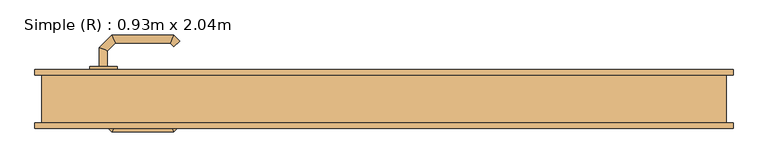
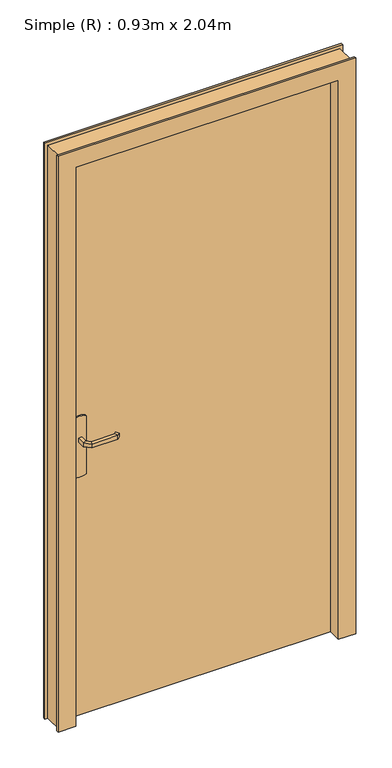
"""IFC4 building model written with IfcOpenShell, lengths in millimetres: door geometry, Simple (R) : 0.93m x 2.04m."""

from ifc_helpers import new_model, si_unit, point, frame, frame_2d, origin, origin_with_axes, place, context, project, spatial, polyline, circle_curve, ellipse_curve, trimmed, segment, composite_curve, outline, extrude, faceted_brep, source, transform, mapped, element, save
from ifc_brep_helpers import plane_surface, cylinder_surface, advanced_brep


def simple_r_0_93m_x_2_04m_b10a4dcd(model_context):
    return source(origin(), model_context, "Body", "SolidModel", [
        advanced_brep(
        [(-404.0, -2.0, 993.0), (-416.0, -2.0, 993.0), (-416.0, -2.0, 1007.0), (-404.0, -2.0, 1007.0), (-404.0, -24.4852045, 1007.0), (-404.0, -24.4852045, 993.0), (-416.0, -29.4557673, 1007.0), (-416.0, -29.4557673, 993.0), (-392.5147186, -35.9704859, 1007.0), (-392.5147186, -35.9704859, 993.0), (-397.4852814, -47.9704859, 1007.0), (-397.4852814, -47.9704859, 993.0), (-312.4394977, -35.9704859, 1007.0), (-312.4394977, -35.9704859, 993.0), (-307.468935, -47.9704859, 1007.0), (-307.468935, -47.9704859, 993.0), (-307.1257892, -30.6567774, 993.0), (-307.1257892, -30.6567774, 1007.0), (-298.6405078, -39.1420588, 1007.0), (-298.6405078, -39.1420588, 993.0)],
        [
            (0, 1, circle_curve(frame((-410.0, -2.0, 1013.0457722), z_axis=(0.0, 1.0, 0.0), x_axis=(-1.0, 0.0, 0.0)), 20.9244589)),
            (1, 2),
            (2, 3, circle_curve(frame((-410.0, -2.0, 986.9542278), z_axis=(0.0, 1.0, 0.0), x_axis=(-1.0, 0.0, 0.0)), 20.9244589)),
            (3, 0),
            (3, 4),
            (4, 5),
            (5, 0),
            (2, 6),
            (6, 4, ellipse_curve(frame((-410.0, -26.9704859, 986.9542278), z_axis=(-0.38268343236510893, 0.9238795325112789, 0.0), x_axis=(0.9238795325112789, 0.3826834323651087, 0.0)), 22.6484711, 20.9244589)),
            (1, 7),
            (7, 6),
            (5, 7, ellipse_curve(frame((-410.0, -26.9704859, 1013.0457722), z_axis=(-0.38268343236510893, 0.9238795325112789, 0.0), x_axis=(0.9238795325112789, 0.3826834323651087, 0.0)), 22.6484711, 20.9244589)),
            (4, 8),
            (8, 9),
            (9, 5),
            (6, 10),
            (10, 8, ellipse_curve(frame((-395.0, -41.9704859, 986.9542278), z_axis=(-0.9238795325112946, 0.38268343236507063, 0.0), x_axis=(0.3826834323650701, 0.9238795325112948, 0.0)), 22.6484711, 20.9244589)),
            (7, 11),
            (11, 10),
            (9, 11, ellipse_curve(frame((-395.0, -41.9704859, 1013.0457722), z_axis=(-0.9238795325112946, 0.38268343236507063, 0.0), x_axis=(0.3826834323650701, 0.9238795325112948, 0.0)), 22.6484711, 20.9244589)),
            (8, 12),
            (12, 13),
            (13, 9),
            (10, 14),
            (14, 12, ellipse_curve(frame((-309.9542163, -41.9704859, 986.9542278), z_axis=(-0.9238795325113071, -0.38268343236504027, 0.0), x_axis=(-0.38268343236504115, 0.9238795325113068, 0.0)), 22.6484711, 20.9244589)),
            (11, 15),
            (15, 14),
            (13, 15, ellipse_curve(frame((-309.9542163, -41.9704859, 1013.0457722), z_axis=(-0.9238795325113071, -0.38268343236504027, 0.0), x_axis=(-0.38268343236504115, 0.9238795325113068, 0.0)), 22.6484711, 20.9244589)),
            (16, 17),
            (17, 18, circle_curve(frame((-302.8831485, -34.8994181, 986.9542278), z_axis=(0.7071067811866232, 0.7071067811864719, 0.0), x_axis=(0.7071067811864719, -0.7071067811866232, 0.0)), 20.9244589)),
            (18, 19),
            (19, 16, circle_curve(frame((-302.8831485, -34.8994181, 1013.0457722), z_axis=(0.7071067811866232, 0.7071067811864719, 0.0), x_axis=(0.7071067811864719, -0.7071067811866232, 0.0)), 20.9244589)),
            (12, 17),
            (16, 13),
            (14, 18),
            (15, 19),
        ],
        [
            plane_surface(frame((-419.2195445, -2.0, 1000.0), z_axis=(0.0, 1.0, 0.0), x_axis=(0.0, 0.0, 1.0))),
            plane_surface(frame((-404.0, -2.0, 993.0), z_axis=(1.0, 0.0, 0.0), x_axis=(0.0, -1.0, 0.0))),
            cylinder_surface(frame((-410.0, -2.0, 986.9542278), z_axis=(0.0, 1.0, 0.0), x_axis=(-1.0, 0.0, 0.0)), 20.9244589),
            plane_surface(frame((-416.0, -2.0, 1007.0), z_axis=(-1.0, 0.0, 0.0), x_axis=(0.0, -1.0, 0.0))),
            cylinder_surface(frame((-410.0, -2.0, 1013.0457722), z_axis=(0.0, 1.0, 0.0), x_axis=(-1.0, 0.0, 0.0)), 20.9244589),
            plane_surface(frame((-404.0, -24.4852045, 993.0), z_axis=(0.707106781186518, 0.707106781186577, 0.0), x_axis=(0.707106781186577, -0.707106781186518, 0.0))),
            cylinder_surface(frame((-410.0, -26.9704859, 986.9542278), z_axis=(-0.7071067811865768, 0.7071067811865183, 0.0), x_axis=(-0.7071067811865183, -0.7071067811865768, 0.0)), 20.9244589),
            plane_surface(frame((-416.0, -29.4557673, 1007.0), z_axis=(-0.7071067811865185, -0.7071067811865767, 0.0), x_axis=(0.7071067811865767, -0.7071067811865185, 0.0))),
            cylinder_surface(frame((-410.0, -26.9704859, 1013.0457722), z_axis=(-0.7071067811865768, 0.7071067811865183, 0.0), x_axis=(-0.7071067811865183, -0.7071067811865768, 0.0)), 20.9244589),
            plane_surface(frame((-392.5147186, -35.9704859, 993.0), z_axis=(0.0, 1.0, 0.0), x_axis=(1.0, 0.0, 0.0))),
            cylinder_surface(frame((-395.0, -41.9704859, 986.9542278), z_axis=(-1.0, 0.0, 0.0), x_axis=(0.0, -1.0, 0.0)), 20.9244589),
            plane_surface(frame((-397.4852814, -47.9704859, 1007.0), z_axis=(0.0, -1.0, 0.0), x_axis=(1.0, 0.0, 0.0))),
            cylinder_surface(frame((-395.0, -41.9704859, 1013.0457722), z_axis=(-1.0, 0.0, 0.0), x_axis=(0.0, -1.0, 0.0)), 20.9244589),
            plane_surface(frame((-302.8831485, -34.8994181, 990.7804555), z_axis=(0.7071067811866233, 0.7071067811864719, 0.0), x_axis=(0.7071067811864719, -0.7071067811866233, 0.0))),
            plane_surface(frame((-312.4394977, -35.9704859, 993.0), z_axis=(-0.707106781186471, 0.7071067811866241, 0.0), x_axis=(0.7071067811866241, 0.707106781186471, 0.0))),
            cylinder_surface(frame((-309.9542163, -41.9704859, 986.9542278), z_axis=(-0.7071067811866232, -0.7071067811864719, 0.0), x_axis=(0.7071067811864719, -0.7071067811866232, 0.0)), 20.9244589),
            plane_surface(frame((-307.468935, -47.9704859, 1007.0), z_axis=(0.7071067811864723, -0.7071067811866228, 0.0), x_axis=(0.7071067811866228, 0.7071067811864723, 0.0))),
            cylinder_surface(frame((-309.9542163, -41.9704859, 1013.0457722), z_axis=(-0.7071067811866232, -0.7071067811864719, 0.0), x_axis=(0.7071067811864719, -0.7071067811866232, 0.0)), 20.9244589),
        ],
        [
            (0, [[1, 2, 3, 4]]),
            (1, [[5, 6, 7, -4]]),
            (2, [[8, 9, -5, -3]]),
            (3, [[10, 11, -8, -2]]),
            (4, [[-7, 12, -10, -1]]),
            (5, [[13, 14, 15, -6]]),
            (6, [[16, 17, -13, -9]]),
            (7, [[18, 19, -16, -11]]),
            (8, [[-15, 20, -18, -12]]),
            (9, [[21, 22, 23, -14]]),
            (10, [[24, 25, -21, -17]]),
            (11, [[26, 27, -24, -19]]),
            (12, [[-23, 28, -26, -20]]),
            (13, [[29, 30, 31, 32]]),
            (14, [[33, -29, 34, -22]]),
            (15, [[35, -30, -33, -25]]),
            (16, [[36, -31, -35, -27]]),
            (17, [[-34, -32, -36, -28]]),
        ],
    ),
        advanced_brep(
        [(-416.0, 48.0, 1007.0), (-416.0, 48.0, 993.0), (-404.0, 48.0, 993.0), (-404.0, 48.0, 1007.0), (-404.0, 70.680388, 1007.0), (-416.0, 75.6509507, 1007.0), (-404.0, 70.680388, 993.0), (-416.0, 75.6509507, 993.0), (-392.6522273, 82.0281607, 1007.0), (-397.62279, 94.0281607, 1007.0), (-392.6522273, 82.0281607, 993.0), (-397.62279, 94.0281607, 993.0), (-312.4666408, 82.0281607, 1007.0), (-307.496078, 94.0281607, 1007.0), (-312.4666408, 82.0281607, 993.0), (-307.496078, 94.0281607, 993.0), (-298.6676509, 85.1997336, 1007.0), (-307.1529323, 76.7144522, 1007.0), (-307.1529323, 76.7144522, 993.0), (-298.6676509, 85.1997336, 993.0)],
        [
            (0, 1),
            (1, 2, circle_curve(frame((-410.0, 48.0, 1013.0457722), z_axis=(0.0, -1.0, 0.0), x_axis=(1.0, 0.0, 0.0)), 20.9244589)),
            (2, 3),
            (3, 0, circle_curve(frame((-410.0, 48.0, 986.9542278), z_axis=(0.0, -1.0, 0.0), x_axis=(1.0, 0.0, 0.0)), 20.9244589)),
            (3, 4),
            (4, 5, ellipse_curve(frame((-410.0, 73.1656693, 986.9542278), z_axis=(-0.3826834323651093, -0.9238795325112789, 0.0), x_axis=(0.9238795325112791, -0.38268343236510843, 0.0)), 22.6484711, 20.9244589)),
            (5, 0),
            (2, 6),
            (6, 4),
            (1, 7),
            (7, 6, ellipse_curve(frame((-410.0, 73.1656693, 1013.0457722), z_axis=(-0.3826834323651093, -0.9238795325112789, 0.0), x_axis=(0.9238795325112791, -0.38268343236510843, 0.0)), 22.6484711, 20.9244589)),
            (5, 7),
            (4, 8),
            (8, 9, ellipse_curve(frame((-395.1375086, 88.0281607, 986.9542278), z_axis=(-0.9238795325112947, -0.38268343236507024, 0.0), x_axis=(0.3826834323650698, -0.9238795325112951, 0.0)), 22.6484711, 20.9244589)),
            (9, 5),
            (6, 10),
            (10, 8),
            (7, 11),
            (11, 10, ellipse_curve(frame((-395.1375086, 88.0281607, 1013.0457722), z_axis=(-0.9238795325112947, -0.38268343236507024, 0.0), x_axis=(0.3826834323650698, -0.9238795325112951, 0.0)), 22.6484711, 20.9244589)),
            (9, 11),
            (8, 12),
            (12, 13, ellipse_curve(frame((-309.9813594, 88.0281607, 986.9542278), z_axis=(-0.9238795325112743, 0.3826834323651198, 0.0), x_axis=(-0.38268343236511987, -0.9238795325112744, 0.0)), 22.6484711, 20.9244589)),
            (13, 9),
            (10, 14),
            (14, 12),
            (11, 15),
            (15, 14, ellipse_curve(frame((-309.9813594, 88.0281607, 1013.0457722), z_axis=(-0.9238795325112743, 0.3826834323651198, 0.0), x_axis=(-0.38268343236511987, -0.9238795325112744, 0.0)), 22.6484711, 20.9244589)),
            (13, 15),
            (16, 17, circle_curve(frame((-302.9102916, 80.9570929, 986.9542278), z_axis=(0.7071067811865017, -0.7071067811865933, 0.0), x_axis=(-0.7071067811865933, -0.7071067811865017, 0.0)), 20.9244589)),
            (17, 18),
            (18, 19, circle_curve(frame((-302.9102916, 80.9570929, 1013.0457722), z_axis=(0.7071067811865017, -0.7071067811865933, 0.0), x_axis=(-0.7071067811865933, -0.7071067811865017, 0.0)), 20.9244589)),
            (19, 16),
            (12, 17),
            (16, 13),
            (14, 18),
            (15, 19),
        ],
        [
            plane_surface(frame((-419.2195445, 48.0, 1000.0), z_axis=(0.0, -1.0, 0.0), x_axis=(0.0, 0.0, -1.0))),
            cylinder_surface(frame((-410.0, 48.0, 986.9542278), z_axis=(0.0, -1.0, 0.0), x_axis=(1.0, 0.0, 0.0)), 20.9244589),
            plane_surface(frame((-404.0, 48.0, 1007.0), z_axis=(1.0, 0.0, 0.0), x_axis=(0.0, 1.0, 0.0))),
            cylinder_surface(frame((-410.0, 48.0, 1013.0457722), z_axis=(0.0, -1.0, 0.0), x_axis=(1.0, 0.0, 0.0)), 20.9244589),
            plane_surface(frame((-416.0, 48.0, 993.0), z_axis=(-1.0, 0.0, 0.0), x_axis=(0.0, 1.0, 0.0))),
            cylinder_surface(frame((-410.0, 73.1656693, 986.9542278), z_axis=(-0.7071067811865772, -0.7071067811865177, 0.0), x_axis=(0.7071067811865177, -0.7071067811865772, 0.0)), 20.9244589),
            plane_surface(frame((-404.0, 70.680388, 1007.0), z_axis=(0.7071067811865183, -0.7071067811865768, 0.0), x_axis=(0.7071067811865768, 0.7071067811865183, 0.0))),
            cylinder_surface(frame((-410.0, 73.1656693, 1013.0457722), z_axis=(-0.7071067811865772, -0.7071067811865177, 0.0), x_axis=(0.7071067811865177, -0.7071067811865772, 0.0)), 20.9244589),
            plane_surface(frame((-416.0, 75.6509507, 993.0), z_axis=(-0.707106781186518, 0.707106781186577, 0.0), x_axis=(0.707106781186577, 0.707106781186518, 0.0))),
            cylinder_surface(frame((-395.1375086, 88.0281607, 986.9542278), z_axis=(-1.0, 0.0, 0.0), x_axis=(0.0, -1.0, 0.0)), 20.9244589),
            plane_surface(frame((-392.6522273, 82.0281607, 1007.0), z_axis=(0.0, -1.0, 0.0), x_axis=(1.0, 0.0, 0.0))),
            cylinder_surface(frame((-395.1375086, 88.0281607, 1013.0457722), z_axis=(-1.0, 0.0, 0.0), x_axis=(0.0, -1.0, 0.0)), 20.9244589),
            plane_surface(frame((-397.62279, 94.0281607, 993.0), z_axis=(0.0, 1.0, 0.0), x_axis=(1.0, 0.0, 0.0))),
            plane_surface(frame((-302.9102916, 80.9570929, 1009.2195445), z_axis=(0.7071067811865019, -0.7071067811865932, 0.0), x_axis=(0.7071067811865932, 0.7071067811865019, 0.0))),
            cylinder_surface(frame((-309.9813594, 88.0281607, 986.9542278), z_axis=(-0.7071067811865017, 0.7071067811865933, 0.0), x_axis=(-0.7071067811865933, -0.7071067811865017, 0.0)), 20.9244589),
            plane_surface(frame((-312.4666408, 82.0281607, 1007.0), z_axis=(-0.7071067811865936, -0.7071067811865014, 0.0), x_axis=(0.7071067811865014, -0.7071067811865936, 0.0))),
            cylinder_surface(frame((-309.9813594, 88.0281607, 1013.0457722), z_axis=(-0.7071067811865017, 0.7071067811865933, 0.0), x_axis=(-0.7071067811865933, -0.7071067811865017, 0.0)), 20.9244589),
            plane_surface(frame((-307.496078, 94.0281607, 993.0), z_axis=(0.707106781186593, 0.7071067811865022, 0.0), x_axis=(0.7071067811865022, -0.707106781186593, 0.0))),
        ],
        [
            (0, [[1, 2, 3, 4]]),
            (1, [[5, 6, 7, -4]]),
            (2, [[8, 9, -5, -3]]),
            (3, [[10, 11, -8, -2]]),
            (4, [[-7, 12, -10, -1]]),
            (5, [[13, 14, 15, -6]]),
            (6, [[16, 17, -13, -9]]),
            (7, [[18, 19, -16, -11]]),
            (8, [[-15, 20, -18, -12]]),
            (9, [[21, 22, 23, -14]]),
            (10, [[24, 25, -21, -17]]),
            (11, [[26, 27, -24, -19]]),
            (12, [[-23, 28, -26, -20]]),
            (13, [[29, 30, 31, 32]]),
            (14, [[33, -29, 34, -22]]),
            (15, [[35, -30, -33, -25]]),
            (16, [[36, -31, -35, -27]]),
            (17, [[-34, -32, -36, -28]]),
        ],
    ),
        extrude(outline(composite_curve([segment(trimmed(circle_curve(frame_2d((1045.3589838, -410.0)), 40.0), [point((1080.0, -390.0))], [point((1080.0, -430.0))], False, "CARTESIAN"), True, "CONTINUOUS"), segment(polyline([(1080.0, -430.0), (870.0, -430.0)]), True, "CONTINUOUS"), segment(trimmed(circle_curve(frame_2d((904.6410162, -410.0)), 40.0), [point((870.0, -430.0))], [point((870.0, -390.0))], False, "CARTESIAN"), True, "CONTINUOUS"), segment(polyline([(870.0, -390.0), (1080.0, -390.0)]), True, "CONTINUOUS")], self_intersect=False)), frame((0.0, -2.0, 0.0), z_axis=(0.0, 1.0, 0.0), x_axis=(0.0, 0.0, 1.0)), (0.0, 0.0, 1.0), 5.0),
        extrude(outline(composite_curve([segment(trimmed(circle_curve(frame_2d((904.6410162, -410.0)), 40.0), [point((870.0, -430.0))], [point((870.0, -390.0))], False, "CARTESIAN"), True, "CONTINUOUS"), segment(polyline([(870.0, -390.0), (1080.0, -390.0)]), True, "CONTINUOUS"), segment(trimmed(circle_curve(frame_2d((1045.3589838, -410.0)), 40.0), [point((1080.0, -390.0))], [point((1080.0, -430.0))], False, "CARTESIAN"), True, "CONTINUOUS"), segment(polyline([(1080.0, -430.0), (870.0, -430.0)]), True, "CONTINUOUS")], self_intersect=False)), frame((0.0, 43.0, 0.0), z_axis=(0.0, 1.0, 0.0), x_axis=(0.0, 0.0, 1.0)), (0.0, 0.0, 1.0), 5.0),
        faceted_brep([(-500.0, 35.0, 0.0), (-510.0, 35.0, 0.0), (-510.0, 43.0, 0.0), (-465.0, 43.0, 0.0), (-465.0, 3.0, 0.0), (-450.0, 3.0, 0.0), (-450.0, -43.0, 0.0), (-510.0, -43.0, 0.0), (-510.0, -35.0, 0.0), (-500.0, -35.0, 0.0), (-500.0, -35.0, 2075.0), (-500.0, 35.0, 2075.0), (-510.0, -35.0, 2085.0), (510.0, -35.0, 2085.0), (510.0, -35.0, 0.0), (500.0, -35.0, 0.0), (500.0, -35.0, 2075.0), (-510.0, -43.0, 2085.0), (-450.0, -43.0, 2025.0), (450.0, -43.0, 2025.0), (450.0, -43.0, 0.0), (510.0, -43.0, 0.0), (510.0, -43.0, 2085.0), (-450.0, 3.0, 2025.0), (-465.0, 3.0, 2040.0), (465.0, 3.0, 2040.0), (465.0, 3.0, 0.0), (450.0, 3.0, 0.0), (450.0, 3.0, 2025.0), (-465.0, 43.0, 2040.0), (-510.0, 43.0, 2085.0), (510.0, 43.0, 2085.0), (510.0, 43.0, 0.0), (465.0, 43.0, 0.0), (465.0, 43.0, 2040.0), (-510.0, 35.0, 2085.0), (500.0, 35.0, 2075.0), (500.0, 35.0, 0.0), (510.0, 35.0, 0.0), (510.0, 35.0, 2085.0)], [[[0, 1, 2, 3, 4, 5, 6, 7, 8, 9]], [[9, 10, 11, 0]], [[8, 12, 13, 14, 15, 16, 10, 9]], [[7, 17, 12, 8]], [[6, 18, 19, 20, 21, 22, 17, 7]], [[5, 23, 18, 6]], [[4, 24, 25, 26, 27, 28, 23, 5]], [[3, 29, 24, 4]], [[2, 30, 31, 32, 33, 34, 29, 3]], [[1, 35, 30, 2]], [[0, 11, 36, 37, 38, 39, 35, 1]], [[10, 16, 36, 11]], [[17, 22, 13, 12]], [[23, 28, 19, 18]], [[29, 34, 25, 24]], [[35, 39, 31, 30]], [[37, 15, 14, 21, 20, 27, 26, 33, 32, 38]], [[16, 15, 37, 36]], [[22, 21, 14, 13]], [[28, 27, 20, 19]], [[34, 33, 26, 25]], [[39, 38, 32, 31]]]),
        extrude(outline(polyline([(465.0, 43.0), (465.0, 3.0), (-465.0, 3.0), (-465.0, 43.0), (465.0, 43.0)])), origin_with_axes(), (0.0, 0.0, 1.0), 2040.0),
    ])


if __name__ == "__main__":
    model = new_model("IFC4")
    model_context = context("Model", 3, world=origin())
    ifc_project = project(units=[si_unit("LENGTHUNIT", "METRE", prefix="MILLI")], contexts=[model_context])
    site = spatial("IfcSite", under=ifc_project)
    building = spatial("IfcBuilding", under=site)
    placement = place(None, origin())
    simple_r_0_93m_x_2_04m_shape = simple_r_0_93m_x_2_04m_b10a4dcd(model_context)
    element("IfcDoor", 1, ObjectType="Simple (R) : 0.93m x 2.04m", at=placement, inside=building, context=model_context, shape_type="MappedRepresentation", body=[
        mapped(simple_r_0_93m_x_2_04m_shape, transform((0.0, 0.0, 0.0), x_axis=(1.0, 0.0, 0.0), y_axis=(0.0, 1.0, 0.0), z_axis=(0.0, 0.0, 1.0))),
    ])
    save(model, "model.ifc")
